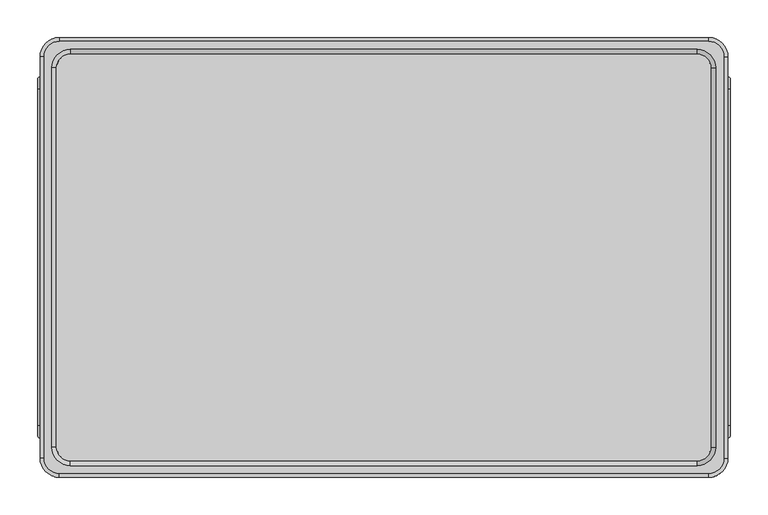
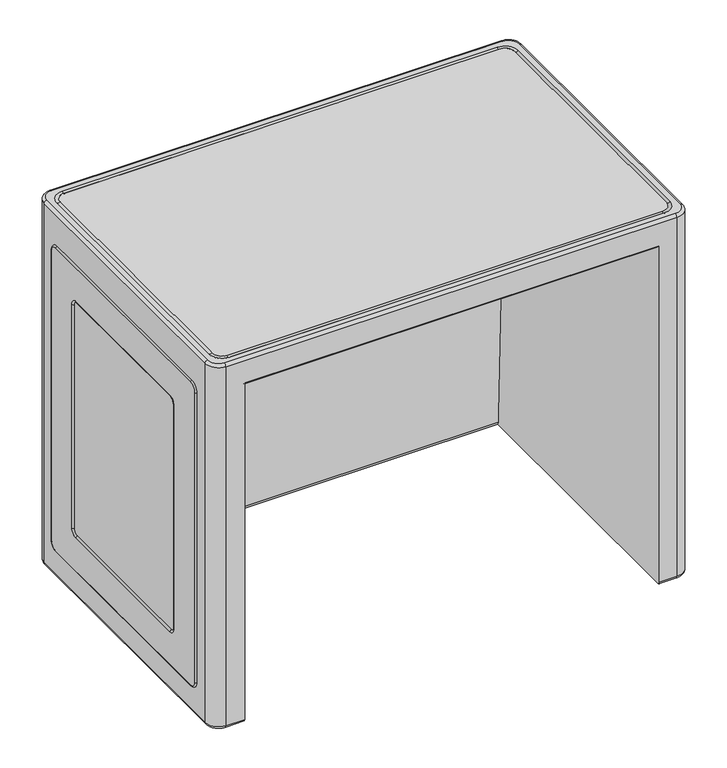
"""IFC4 building model written with IfcOpenShell, lengths in millimetres: furniture geometry, StanceHC-Frontier-Table_Desk : FRCG500."""

from ifc_helpers import new_model, si_unit, point, frame, origin, place, context, project, spatial, polyline, circle_curve, ellipse_curve, trimmed, source, transform, mapped, element, save
from ifc_brep_helpers import plane_surface, cylinder_surface, revolved_surface, advanced_brep


def furniture_8874e70b(model_context):
    return source(origin(), model_context, "Body", "AdvancedBrep", [
        advanced_brep(
        [(909.3563398, -25.4, 0.0), (888.7188398, -4.7625, 0.0), (888.7188398, 0.0, 4.7625), (914.1188398, -25.4, 4.7625), (914.1188398, -25.4, 731.7410185), (888.7188398, 0.0, 731.7410185), (888.7188398, -4.7625, 736.5035185), (909.3563398, -25.4, 736.5035185), (914.1188398, -558.6947752, 4.7625), (909.3563398, -558.6947752, 0.0), (909.3563398, -558.6947752, 736.5035185), (914.1188398, -558.6947752, 731.7410185), (888.7188398, -584.0947752, 4.7625), (888.7188398, -579.3322752, 0.0), (888.7188398, -579.3322752, 736.5035185), (888.7188398, -584.0947752, 731.7410185), (854.6510018, -584.0947752, 4.7625), (854.6510018, -579.3322752, 0.0), (25.4, -584.0947752, 4.7625), (25.4, -579.3322752, 0.0), (60.8106223, -579.3322752, 0.0), (60.8106223, -584.0947752, 4.7625), (25.4, -579.3322752, 736.5035185), (25.4, -584.0947752, 731.7410185), (60.8106223, -584.0947752, 686.4291708), (854.6510018, -584.0947752, 686.4291708), (0.0, -558.6947752, 4.7625), (4.7625, -558.6947752, 0.0), (4.7625, -558.6947752, 736.5035185), (0.0, -558.6947752, 731.7410185), (0.0, -25.4, 4.7625), (4.7625, -25.4, 0.0), (4.7625, -25.4, 736.5035185), (0.0, -25.4, 731.7410185), (25.4, 0.0, 4.7625), (25.4, -4.7625, 0.0), (25.4, -4.7625, 736.5035185), (25.4, 0.0, 731.7410185), (854.6510018, -48.6313695, 0.0), (60.8106223, -48.6313695, 0.0), (873.2309771, -15.7221405, 736.5035185), (897.6331606, -40.124324, 736.5035185), (897.6331606, -544.1829581, 736.5035185), (873.2309771, -568.5851417, 736.5035185), (40.1089371, -568.5851417, 736.5035185), (15.7067535, -544.1829581, 736.5035185), (15.7067535, -40.124324, 736.5035185), (40.1089371, -15.7221405, 736.5035185), (891.4936941, -40.124324, 736.5035185), (873.2309771, -21.861607, 736.5035185), (40.1089371, -21.861607, 736.5035185), (21.84622, -40.124324, 736.5035185), (21.84622, -544.1829581, 736.5035185), (40.1089371, -562.4456752, 736.5035185), (873.2309771, -562.4456752, 736.5035185), (891.4936941, -544.1829581, 736.5035185), (854.6510018, -573.0277191, 678.9532138), (854.6510018, -85.7246584, 661.9362159), (854.6510018, -73.4756185, 649.687176), (854.6510018, -50.9687399, 5.1744994), (60.8106223, -50.9687399, 5.1744994), (60.8106223, -73.4756185, 649.687176), (60.8106223, -85.7246584, 661.9362159), (60.8106223, -573.0277191, 678.9532138)],
        [
            (0, 1, circle_curve(frame((888.7188398, -25.4, 0.0), z_axis=(0.0, 0.0, 1.0), x_axis=(0.0, 1.0, 0.0)), 20.6375)),
            (1, 2, circle_curve(frame((888.7188398, -4.7625, 4.7625), z_axis=(1.0, 0.0, 0.0), x_axis=(0.0, 1.0, 0.0)), 4.7625)),
            (2, 3, circle_curve(frame((888.7188398, -25.4, 4.7625), z_axis=(0.0, 0.0, -1.0), x_axis=(0.0, 1.0, 0.0)), 25.4)),
            (3, 0, circle_curve(frame((909.3563398, -25.4, 4.7625), z_axis=(0.0, 1.0, 0.0), x_axis=(1.0, 0.0, 0.0)), 4.7625)),
            (4, 5, circle_curve(frame((888.7188398, -25.4, 731.7410185), z_axis=(0.0, 0.0, 1.0), x_axis=(0.0, 1.0, 0.0)), 25.4)),
            (5, 6, circle_curve(frame((888.7188398, -4.7625, 731.7410185), z_axis=(1.0, 0.0, 0.0), x_axis=(0.0, 1.0, 0.0)), 4.7625)),
            (6, 7, circle_curve(frame((888.7188398, -25.4, 736.5035185), z_axis=(0.0, 0.0, -1.0), x_axis=(0.0, 1.0, 0.0)), 20.6375)),
            (7, 4, circle_curve(frame((909.3563398, -25.4, 731.7410185), z_axis=(0.0, 1.0, 0.0), x_axis=(1.0, 0.0, 0.0)), 4.7625)),
            (2, 5),
            (4, 3),
            (3, 8),
            (8, 9, circle_curve(frame((909.3563398, -558.6947752, 4.7625), z_axis=(0.0, 1.0, 0.0), x_axis=(1.0, 0.0, 0.0)), 4.7625)),
            (9, 0),
            (7, 10),
            (10, 11, circle_curve(frame((909.3563398, -558.6947752, 731.7410185), z_axis=(0.0, 1.0, 0.0), x_axis=(1.0, 0.0, 0.0)), 4.7625)),
            (11, 4),
            (11, 8),
            (8, 12, circle_curve(frame((888.7188398, -558.6947752, 4.7625), z_axis=(0.0, 0.0, -1.0), x_axis=(1.0, 0.0, 0.0)), 25.4)),
            (12, 13, circle_curve(frame((888.7188398, -579.3322752, 4.7625), z_axis=(1.0, 0.0, 0.0), x_axis=(0.0, -1.0, 0.0)), 4.7625)),
            (13, 9, circle_curve(frame((888.7188398, -558.6947752, 0.0), z_axis=(0.0, 0.0, 1.0), x_axis=(1.0, 0.0, 0.0)), 20.6375)),
            (10, 14, circle_curve(frame((888.7188398, -558.6947752, 736.5035185), z_axis=(0.0, 0.0, -1.0), x_axis=(1.0, 0.0, 0.0)), 20.6375)),
            (14, 15, circle_curve(frame((888.7188398, -579.3322752, 731.7410185), z_axis=(1.0, 0.0, 0.0), x_axis=(0.0, -1.0, 0.0)), 4.7625)),
            (15, 11, circle_curve(frame((888.7188398, -558.6947752, 731.7410185), z_axis=(0.0, 0.0, 1.0), x_axis=(1.0, 0.0, 0.0)), 25.4)),
            (15, 12),
            (12, 16),
            (16, 17, circle_curve(frame((854.6510018, -579.3322752, 4.7625), z_axis=(1.0, 0.0, 0.0), x_axis=(0.0, -1.0, 0.0)), 4.7625)),
            (17, 13),
            (18, 19, circle_curve(frame((25.4, -579.3322752, 4.7625), z_axis=(1.0, 0.0, 0.0), x_axis=(0.0, -1.0, 0.0)), 4.7625)),
            (19, 20),
            (20, 21, circle_curve(frame((60.8106223, -579.3322752, 4.7625), z_axis=(-1.0, 0.0, 0.0), x_axis=(0.0, -1.0, 0.0)), 4.7625)),
            (21, 18),
            (14, 22),
            (22, 23, circle_curve(frame((25.4, -579.3322752, 731.7410185), z_axis=(1.0, 0.0, 0.0), x_axis=(0.0, -1.0, 0.0)), 4.7625)),
            (23, 15),
            (23, 18),
            (21, 24),
            (24, 25),
            (25, 16),
            (18, 26, circle_curve(frame((25.4, -558.6947752, 4.7625), z_axis=(0.0, 0.0, -1.0), x_axis=(0.0, -1.0, 0.0)), 25.4)),
            (26, 27, circle_curve(frame((4.7625, -558.6947752, 4.7625), z_axis=(0.0, -1.0, 0.0), x_axis=(-1.0, 0.0, 0.0)), 4.7625)),
            (27, 19, circle_curve(frame((25.4, -558.6947752, 0.0), z_axis=(0.0, 0.0, 1.0), x_axis=(0.0, -1.0, 0.0)), 20.6375)),
            (22, 28, circle_curve(frame((25.4, -558.6947752, 736.5035185), z_axis=(0.0, 0.0, -1.0), x_axis=(0.0, -1.0, 0.0)), 20.6375)),
            (28, 29, circle_curve(frame((4.7625, -558.6947752, 731.7410185), z_axis=(0.0, -1.0, 0.0), x_axis=(-1.0, 0.0, 0.0)), 4.7625)),
            (29, 23, circle_curve(frame((25.4, -558.6947752, 731.7410185), z_axis=(0.0, 0.0, 1.0), x_axis=(0.0, -1.0, 0.0)), 25.4)),
            (29, 26),
            (26, 30),
            (30, 31, circle_curve(frame((4.7625, -25.4, 4.7625), z_axis=(0.0, -1.0, 0.0), x_axis=(-1.0, 0.0, 0.0)), 4.7625)),
            (31, 27),
            (28, 32),
            (32, 33, circle_curve(frame((4.7625, -25.4, 731.7410185), z_axis=(0.0, -1.0, 0.0), x_axis=(-1.0, 0.0, 0.0)), 4.7625)),
            (33, 29),
            (33, 30),
            (30, 34, circle_curve(frame((25.4, -25.4, 4.7625), z_axis=(0.0, 0.0, -1.0), x_axis=(-1.0, 0.0, 0.0)), 25.4)),
            (34, 35, circle_curve(frame((25.4, -4.7625, 4.7625), z_axis=(-1.0, 0.0, 0.0), x_axis=(0.0, 1.0, 0.0)), 4.7625)),
            (35, 31, circle_curve(frame((25.4, -25.4, 0.0), z_axis=(0.0, 0.0, 1.0), x_axis=(-1.0, 0.0, 0.0)), 20.6375)),
            (32, 36, circle_curve(frame((25.4, -25.4, 736.5035185), z_axis=(0.0, 0.0, -1.0), x_axis=(-1.0, 0.0, 0.0)), 20.6375)),
            (36, 37, circle_curve(frame((25.4, -4.7625, 731.7410185), z_axis=(-1.0, 0.0, 0.0), x_axis=(0.0, 1.0, 0.0)), 4.7625)),
            (37, 33, circle_curve(frame((25.4, -25.4, 731.7410185), z_axis=(0.0, 0.0, 1.0), x_axis=(-1.0, 0.0, 0.0)), 25.4)),
            (37, 34),
            (1, 35),
            (34, 2),
            (17, 38),
            (38, 39),
            (39, 20),
            (6, 36),
            (40, 41, circle_curve(frame((873.2309771, -40.124324, 736.5035185), z_axis=(0.0, 0.0, -1.0), x_axis=(0.0, 1.0, 0.0)), 24.4021835)),
            (41, 42),
            (42, 43, circle_curve(frame((873.2309771, -544.1829581, 736.5035185), z_axis=(0.0, 0.0, -1.0), x_axis=(1.0, 0.0, 0.0)), 24.4021835)),
            (43, 44),
            (44, 45, circle_curve(frame((40.1089371, -544.1829581, 736.5035185), z_axis=(0.0, 0.0, -1.0), x_axis=(0.0, -1.0, 0.0)), 24.4021835)),
            (45, 46),
            (46, 47, circle_curve(frame((40.1089371, -40.124324, 736.5035185), z_axis=(0.0, 0.0, -1.0), x_axis=(-1.0, 0.0, 0.0)), 24.4021835)),
            (47, 40),
            (48, 49, circle_curve(frame((873.2309771, -40.124324, 736.5035185), z_axis=(0.0, 0.0, 1.0), x_axis=(0.0, 1.0, 0.0)), 18.2627171)),
            (49, 50),
            (50, 51, circle_curve(frame((40.1089371, -40.124324, 736.5035185), z_axis=(0.0, 0.0, 1.0), x_axis=(-1.0, 0.0, 0.0)), 18.2627171)),
            (51, 52),
            (52, 53, circle_curve(frame((40.1089371, -544.1829581, 736.5035185), z_axis=(0.0, 0.0, 1.0), x_axis=(0.0, -1.0, 0.0)), 18.2627171)),
            (53, 54),
            (54, 55, circle_curve(frame((873.2309771, -544.1829581, 736.5035185), z_axis=(0.0, 0.0, 1.0), x_axis=(1.0, 0.0, 0.0)), 18.2627171)),
            (55, 48),
            (5, 37),
            (56, 57),
            (57, 58, circle_curve(frame((854.6510018, -86.167882, 649.2439524), z_axis=(-1.0, 0.0, 0.0), x_axis=(0.0, 1.0, 0.0)), 12.7)),
            (58, 59),
            (59, 38, circle_curve(frame((854.6510018, -43.4945547, 5.4355037), z_axis=(1.0, 0.0, 0.0), x_axis=(0.0, 1.0, 0.0)), 7.478741)),
            (25, 56, circle_curve(frame((854.6510018, -572.5884204, 691.5330849), z_axis=(1.0, 0.0, 0.0), x_axis=(0.0, 1.0, 0.0)), 12.5875391)),
            (60, 61),
            (61, 62, circle_curve(frame((60.8106223, -86.167882, 649.2439524), z_axis=(1.0, 0.0, 0.0), x_axis=(0.0, 1.0, 0.0)), 12.7)),
            (62, 63),
            (63, 24, circle_curve(frame((60.8106223, -572.5884204, 691.5330849), z_axis=(-1.0, 0.0, 0.0), x_axis=(0.0, 1.0, 0.0)), 12.5875391)),
            (39, 60, circle_curve(frame((60.8106223, -43.4945547, 5.4355037), z_axis=(-1.0, 0.0, 0.0), x_axis=(0.0, 1.0, 0.0)), 7.478741)),
            (63, 56),
            (59, 60),
            (58, 61),
            (57, 62),
            (48, 41, circle_curve(frame((894.5634274, -40.124324, 737.8805691), z_axis=(0.0, -1.0, 0.0), x_axis=(1.0, 0.0, 0.0)), 3.364451)),
            (40, 49, circle_curve(frame((873.2309771, -18.7918737, 737.8805691), z_axis=(-1.0, 0.0, 0.0), x_axis=(0.0, 1.0, 0.0)), 3.364451)),
            (55, 42, circle_curve(frame((894.5634274, -544.1829581, 737.8805691), z_axis=(0.0, -1.0, 0.0), x_axis=(1.0, 0.0, 0.0)), 3.364451)),
            (54, 43, circle_curve(frame((873.2309771, -565.5154084, 737.8805691), z_axis=(-1.0, 0.0, 0.0), x_axis=(0.0, -1.0, 0.0)), 3.364451)),
            (53, 44, circle_curve(frame((40.1089371, -565.5154084, 737.8805691), z_axis=(-1.0, 0.0, 0.0), x_axis=(0.0, -1.0, 0.0)), 3.364451)),
            (52, 45, circle_curve(frame((18.7764868, -544.1829581, 737.8805691), z_axis=(0.0, 1.0, 0.0), x_axis=(-1.0, 0.0, 0.0)), 3.364451)),
            (51, 46, circle_curve(frame((18.7764868, -40.124324, 737.8805691), z_axis=(0.0, 1.0, 0.0), x_axis=(-1.0, 0.0, 0.0)), 3.364451)),
            (50, 47, circle_curve(frame((40.1089371, -18.7918737, 737.8805691), z_axis=(1.0, 0.0, 0.0), x_axis=(0.0, 1.0, 0.0)), 3.364451)),
        ],
        [
            revolved_surface(trimmed(ellipse_curve(frame((888.7188398, -4.7625, 4.7625), z_axis=(-1.0, 0.0, 0.0), x_axis=(0.0, 1.0, 0.0)), 4.7625, 4.7625), [point((888.7188398, 0.0, 4.7625))], [point((888.7188398, -4.7625, 0.0))], True, "CARTESIAN"), (888.7188398, -25.4, 0.0), (0.0, 0.0, -1.0)),
            revolved_surface(trimmed(ellipse_curve(frame((888.7188398, -4.7625, 731.7410185), z_axis=(-1.0, 0.0, 0.0), x_axis=(0.0, 1.0, 0.0)), 4.7625, 4.7625), [point((888.7188398, -4.7625, 736.5035185))], [point((888.7188398, 0.0, 731.7410185))], True, "CARTESIAN"), (888.7188398, -25.4, 0.0), (0.0, 0.0, -1.0)),
            cylinder_surface(frame((888.7188398, -25.4, 0.0), z_axis=(0.0, 0.0, -1.0), x_axis=(0.0, 1.0, 0.0)), 25.4),
            cylinder_surface(frame((909.3563398, -25.4, 4.7625), z_axis=(0.0, 1.0, 0.0), x_axis=(1.0, 0.0, 0.0)), 4.7625),
            cylinder_surface(frame((909.3563398, -25.4, 731.7410185), z_axis=(0.0, 1.0, 0.0), x_axis=(1.0, 0.0, 0.0)), 4.7625),
            plane_surface(frame((914.1188398, -25.4, 731.7410185), z_axis=(1.0, 0.0, 0.0), x_axis=(0.0, -1.0, 0.0))),
            revolved_surface(trimmed(ellipse_curve(frame((909.3563398, -558.6947752, 4.7625), z_axis=(0.0, 1.0, 0.0), x_axis=(1.0, 0.0, 0.0)), 4.7625, 4.7625), [point((914.1188398, -558.6947752, 4.7625))], [point((909.3563398, -558.6947752, 0.0))], True, "CARTESIAN"), (888.7188398, -558.6947752, 0.0), (0.0, 0.0, -1.0)),
            revolved_surface(trimmed(ellipse_curve(frame((909.3563398, -558.6947752, 731.7410185), z_axis=(0.0, 1.0, 0.0), x_axis=(1.0, 0.0, 0.0)), 4.7625, 4.7625), [point((909.3563398, -558.6947752, 736.5035185))], [point((914.1188398, -558.6947752, 731.7410185))], True, "CARTESIAN"), (888.7188398, -558.6947752, 0.0), (0.0, 0.0, -1.0)),
            cylinder_surface(frame((888.7188398, -558.6947752, 0.0), z_axis=(0.0, 0.0, -1.0), x_axis=(1.0, 0.0, 0.0)), 25.4),
            cylinder_surface(frame((888.7188398, -579.3322752, 4.7625), z_axis=(1.0, 0.0, 0.0), x_axis=(0.0, -1.0, 0.0)), 4.7625),
            cylinder_surface(frame((888.7188398, -579.3322752, 731.7410185), z_axis=(1.0, 0.0, 0.0), x_axis=(0.0, -1.0, 0.0)), 4.7625),
            plane_surface(frame((888.7188398, -584.0947752, 731.7410185), z_axis=(0.0, -1.0, 0.0), x_axis=(-1.0, 0.0, 0.0))),
            revolved_surface(trimmed(ellipse_curve(frame((25.4, -579.3322752, 4.7625), z_axis=(1.0, 0.0, 0.0), x_axis=(0.0, -1.0, 0.0)), 4.7625, 4.7625), [point((25.4, -584.0947752, 4.7625))], [point((25.4, -579.3322752, 0.0))], True, "CARTESIAN"), (25.4, -558.6947752, 0.0), (0.0, 0.0, -1.0)),
            revolved_surface(trimmed(ellipse_curve(frame((25.4, -579.3322752, 731.7410185), z_axis=(1.0, 0.0, 0.0), x_axis=(0.0, -1.0, 0.0)), 4.7625, 4.7625), [point((25.4, -579.3322752, 736.5035185))], [point((25.4, -584.0947752, 731.7410185))], True, "CARTESIAN"), (25.4, -558.6947752, 0.0), (0.0, 0.0, -1.0)),
            cylinder_surface(frame((25.4, -558.6947752, 0.0), z_axis=(0.0, 0.0, -1.0), x_axis=(0.0, -1.0, 0.0)), 25.4),
            cylinder_surface(frame((4.7625, -558.6947752, 4.7625), z_axis=(0.0, -1.0, 0.0), x_axis=(-1.0, 0.0, 0.0)), 4.7625),
            cylinder_surface(frame((4.7625, -558.6947752, 731.7410185), z_axis=(0.0, -1.0, 0.0), x_axis=(-1.0, 0.0, 0.0)), 4.7625),
            plane_surface(frame((0.0, -558.6947752, 731.7410185), z_axis=(-1.0, 0.0, 0.0), x_axis=(0.0, 1.0, 0.0))),
            revolved_surface(trimmed(ellipse_curve(frame((4.7625, -25.4, 4.7625), z_axis=(0.0, -1.0, 0.0), x_axis=(-1.0, 0.0, 0.0)), 4.7625, 4.7625), [point((0.0, -25.4, 4.7625))], [point((4.7625, -25.4, 0.0))], True, "CARTESIAN"), (25.4, -25.4, 0.0), (0.0, 0.0, -1.0)),
            revolved_surface(trimmed(ellipse_curve(frame((4.7625, -25.4, 731.7410185), z_axis=(0.0, -1.0, 0.0), x_axis=(-1.0, 0.0, 0.0)), 4.7625, 4.7625), [point((4.7625, -25.4, 736.5035185))], [point((0.0, -25.4, 731.7410185))], True, "CARTESIAN"), (25.4, -25.4, 0.0), (0.0, 0.0, -1.0)),
            cylinder_surface(frame((25.4, -25.4, 0.0), z_axis=(0.0, 0.0, -1.0), x_axis=(-1.0, 0.0, 0.0)), 25.4),
            cylinder_surface(frame((25.4, -4.7625, 4.7625), z_axis=(-1.0, 0.0, 0.0), x_axis=(0.0, 1.0, 0.0)), 4.7625),
            plane_surface(frame((25.4, -4.7625, 0.0), z_axis=(0.0, 0.0, -1.0), x_axis=(1.0, 0.0, 0.0))),
            plane_surface(frame((25.4, -9.525, 736.5035185), z_axis=(0.0, 0.0, 1.0), x_axis=(1.0, 0.0, 0.0))),
            cylinder_surface(frame((25.4, -4.7625, 731.7410185), z_axis=(-1.0, 0.0, 0.0), x_axis=(0.0, 1.0, 0.0)), 4.7625),
            plane_surface(frame((25.4, 0.0, 731.7410185), z_axis=(0.0, 1.0, 0.0), x_axis=(1.0, 0.0, 0.0))),
            plane_surface(frame((854.6510018, -560.0008812, 691.5330849), z_axis=(-1.0, 0.0, 0.0), x_axis=(0.0, 0.0, -1.0))),
            plane_surface(frame((60.8106223, -560.0008812, 691.5330849), z_axis=(1.0, 0.0, 0.0), x_axis=(0.0, 0.0, 1.0))),
            cylinder_surface(frame((60.8106223, -572.5884204, 691.5330849), z_axis=(-1.0, 0.0, 0.0), x_axis=(0.0, 1.0, 0.0)), 12.5875391),
            cylinder_surface(frame((60.8106223, -43.4945547, 5.4355037), z_axis=(-1.0, 0.0, 0.0), x_axis=(0.0, 1.0, 0.0)), 7.478741),
            plane_surface(frame((854.6510018, -50.9687399, 5.1744994), z_axis=(0.0, -0.9993908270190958, -0.0348994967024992), x_axis=(-1.0, 0.0, 0.0))),
            revolved_surface(polyline([(854.6510018, -73.467882, 649.2439524), (60.8106223, -73.467882, 649.2439524)]), (60.8106223, -86.167882, 649.2439524), (1.0, 0.0, 0.0)),
            plane_surface(frame((854.6510018, -85.7246584, 661.9362159), z_axis=(0.0, -0.03489949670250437, -0.9993908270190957), x_axis=(-1.0, 0.0, 0.0))),
            revolved_surface(trimmed(ellipse_curve(frame((873.2309771, -18.7918737, 737.8805691), z_axis=(1.0, 0.0, 0.0), x_axis=(0.0, 1.0, 0.0)), 3.364451, 3.364451), [point((873.2309771, -22.1563247, 737.8805691))], [point((873.2309771, -15.4274227, 737.8805691))], True, "CARTESIAN"), (873.2309771, -40.124324, 0.0), (0.0, 0.0, -1.0)),
            revolved_surface(polyline([(897.9278784, -40.124324, 737.8805691), (897.9278784, -544.1829581, 737.8805691)]), (894.5634274, -40.124324, 737.8805691), (0.0, 1.0, 0.0)),
            revolved_surface(trimmed(ellipse_curve(frame((894.5634274, -544.1829581, 737.8805691), z_axis=(0.0, -1.0, 0.0), x_axis=(1.0, 0.0, 0.0)), 3.364451, 3.364451), [point((891.1989764, -544.1829581, 737.8805691))], [point((897.9278784, -544.1829581, 737.8805691))], True, "CARTESIAN"), (873.2309771, -544.1829581, 0.0), (0.0, 0.0, -1.0)),
            revolved_surface(polyline([(873.2309771, -568.8798594, 737.8805691), (40.10893710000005, -568.8798594, 737.8805691)]), (873.2309771, -565.5154084, 737.8805691), (1.0, 0.0, 0.0)),
            revolved_surface(trimmed(ellipse_curve(frame((40.1089371, -565.5154084, 737.8805691), z_axis=(-1.0, 0.0, 0.0), x_axis=(0.0, -1.0, 0.0)), 3.364451, 3.364451), [point((40.1089371, -562.1509574, 737.8805691))], [point((40.1089371, -568.8798594, 737.8805691))], True, "CARTESIAN"), (40.1089371, -544.1829581, 0.0), (0.0, 0.0, -1.0)),
            revolved_surface(polyline([(15.412035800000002, -544.1829581, 737.8805691), (15.412035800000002, -40.124324, 737.8805691)]), (18.7764868, -544.1829581, 737.8805691), (0.0, -1.0, 0.0)),
            revolved_surface(trimmed(ellipse_curve(frame((18.7764868, -40.124324, 737.8805691), z_axis=(0.0, 1.0, 0.0), x_axis=(-1.0, 0.0, 0.0)), 3.364451, 3.364451), [point((22.1409378, -40.124324, 737.8805691))], [point((15.4120358, -40.124324, 737.8805691))], True, "CARTESIAN"), (40.1089371, -40.124324, 0.0), (0.0, 0.0, -1.0)),
            revolved_surface(polyline([(40.1089371, -15.427422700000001, 737.8805691), (873.2309771, -15.427422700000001, 737.8805691)]), (40.1089371, -18.7918737, 737.8805691), (-1.0, 0.0, 0.0)),
        ],
        [
            (0, [[1, 2, 3, 4]]),
            (1, [[5, 6, 7, 8]]),
            (2, [[-3, 9, -5, 10]]),
            (3, [[-4, 11, 12, 13]]),
            (4, [[-8, 14, 15, 16]]),
            (5, [[-10, -16, 17, -11]]),
            (6, [[-12, 18, 19, 20]]),
            (7, [[-15, 21, 22, 23]]),
            (8, [[-17, -23, 24, -18]]),
            (9, [[-19, 25, 26, 27]]),
            (9, [[28, 29, 30, 31]]),
            (10, [[-22, 32, 33, 34]]),
            (11, [[-24, -34, 35, -31, 36, 37, 38, -25]]),
            (12, [[-28, 39, 40, 41]]),
            (13, [[-33, 42, 43, 44]]),
            (14, [[-35, -44, 45, -39]]),
            (15, [[-40, 46, 47, 48]]),
            (16, [[-43, 49, 50, 51]]),
            (17, [[-45, -51, 52, -46]]),
            (18, [[-47, 53, 54, 55]]),
            (19, [[-50, 56, 57, 58]]),
            (20, [[-52, -58, 59, -53]]),
            (21, [[-2, 60, -54, 61]]),
            (22, [[-1, -13, -20, -27, 62, 63, 64, -29, -41, -48, -55, -60]]),
            (23, [[-7, 65, -56, -49, -42, -32, -21, -14], [66, 67, 68, 69, 70, 71, 72, 73]]),
            (23, [[74, 75, 76, 77, 78, 79, 80, 81]]),
            (24, [[-6, 82, -57, -65]]),
            (25, [[-9, -61, -59, -82]]),
            (26, [[83, 84, 85, 86, -62, -26, -38, 87]]),
            (27, [[88, 89, 90, 91, -36, -30, -64, 92]]),
            (28, [[93, -87, -37, -91]]),
            (29, [[94, -92, -63, -86]]),
            (30, [[-85, 95, -88, -94]]),
            (31, [[-84, 96, -89, -95]]),
            (32, [[-83, -93, -90, -96]]),
            (33, [[97, -66, 98, -74]]),
            (34, [[-97, -81, 99, -67]]),
            (35, [[-99, -80, 100, -68]]),
            (36, [[-100, -79, 101, -69]]),
            (37, [[-101, -78, 102, -70]]),
            (38, [[-102, -77, 103, -71]]),
            (39, [[-103, -76, 104, -72]]),
            (40, [[-104, -75, -98, -73]]),
        ],
    ),
        advanced_brep(
        [(-3.2133727, -528.7132992, 655.8047379), (-3.2133727, -516.0132992, 668.5047379), (-3.2133727, -68.1336605, 668.5047379), (-3.2133727, -55.4336605, 655.8047379), (-3.2133727, -55.4336605, 69.2932768), (-3.2133727, -68.1336605, 56.5932768), (-3.2133727, -516.0132992, 56.5932768), (-3.2133727, -528.7132992, 69.2932768), (-3.2133727, -122.7202541, 588.4411031), (-3.2133727, -135.4202541, 601.141105), (-3.2133727, -447.6841002, 601.141105), (-3.2133727, -460.3841002, 588.441105), (-3.2133727, -460.3841002, 135.5244338), (-3.2133727, -447.6841002, 122.8244343), (-3.2133727, -135.4202557, 122.8244343), (-3.2133727, -122.7202541, 135.5244343), (0.0, -516.0132992, 671.7181106), (0.0, -531.9266719, 655.8047379), (0.0, -531.9266719, 69.2932768), (0.0, -516.0132992, 53.379904), (0.0, -68.1336605, 53.379904), (0.0, -52.2202878, 69.2932768), (0.0, -52.2202878, 655.8047379), (0.0, -68.1336605, 671.7181106), (0.0, -135.4202541, 597.9277322), (0.0, -125.9336268, 588.441105), (0.0, -125.9336268, 135.5244343), (0.0, -135.4202541, 126.037807), (0.0, -447.6841002, 126.037807), (0.0, -457.1707275, 135.5244343), (0.0, -457.1707275, 588.441105), (0.0, -447.6841002, 597.9277322)],
        [
            (0, 1, circle_curve(frame((-3.2133727, -516.0132992, 655.8047379), z_axis=(-1.0, 0.0, 0.0), x_axis=(0.0, 0.0, 1.0)), 12.7)),
            (1, 2),
            (2, 3, circle_curve(frame((-3.2133727, -68.1336605, 655.8047379), z_axis=(-1.0, 0.0, 0.0), x_axis=(0.0, 1.0, 0.0)), 12.7)),
            (3, 4),
            (4, 5, circle_curve(frame((-3.2133727, -68.1336605, 69.2932768), z_axis=(-1.0, 0.0, 0.0), x_axis=(0.0, 0.0, -1.0)), 12.7)),
            (5, 6),
            (6, 7, circle_curve(frame((-3.2133727, -516.0132992, 69.2932768), z_axis=(-1.0, 0.0, 0.0), x_axis=(0.0, -1.0, 0.0)), 12.7)),
            (7, 0),
            (8, 9, circle_curve(frame((-3.2133727, -135.4202541, 588.441105), z_axis=(1.0, 0.0, 0.0), x_axis=(0.0, 0.0, 1.0)), 12.7)),
            (9, 10),
            (10, 11, circle_curve(frame((-3.2133727, -447.6841002, 588.441105), z_axis=(1.0, 0.0, 0.0), x_axis=(0.0, -1.0, 0.0)), 12.7)),
            (11, 12),
            (12, 13, circle_curve(frame((-3.2133727, -447.6841002, 135.5244343), z_axis=(1.0, 0.0, 0.0), x_axis=(0.0, 0.0, -1.0)), 12.7)),
            (13, 14),
            (14, 15, circle_curve(frame((-3.2133727, -135.4202541, 135.5244343), z_axis=(1.0, 0.0, 0.0), x_axis=(0.0, 1.0, 0.0)), 12.7)),
            (15, 8),
            (16, 17, circle_curve(frame((0.0, -516.0132992, 655.8047379), z_axis=(1.0, 0.0, 0.0), x_axis=(0.0, 0.0, 1.0)), 15.9133727)),
            (17, 18),
            (18, 19, circle_curve(frame((0.0, -516.0132992, 69.2932768), z_axis=(1.0, 0.0, 0.0), x_axis=(0.0, -1.0, 0.0)), 15.9133727)),
            (19, 20),
            (20, 21, circle_curve(frame((0.0, -68.1336605, 69.2932768), z_axis=(1.0, 0.0, 0.0), x_axis=(0.0, 0.0, -1.0)), 15.9133727)),
            (21, 22),
            (22, 23, circle_curve(frame((0.0, -68.1336605, 655.8047379), z_axis=(1.0, 0.0, 0.0), x_axis=(0.0, 1.0, 0.0)), 15.9133727)),
            (23, 16),
            (24, 25, circle_curve(frame((0.0, -135.4202541, 588.441105), z_axis=(-1.0, 0.0, 0.0), x_axis=(0.0, 0.0, 1.0)), 9.4866273)),
            (25, 26),
            (26, 27, circle_curve(frame((0.0, -135.4202541, 135.5244343), z_axis=(-1.0, 0.0, 0.0), x_axis=(0.0, 1.0, 0.0)), 9.4866273)),
            (27, 28),
            (28, 29, circle_curve(frame((0.0, -447.6841002, 135.5244343), z_axis=(-1.0, 0.0, 0.0), x_axis=(0.0, 0.0, -1.0)), 9.4866273)),
            (29, 30),
            (30, 31, circle_curve(frame((0.0, -447.6841002, 588.441105), z_axis=(-1.0, 0.0, 0.0), x_axis=(0.0, -1.0, 0.0)), 9.4866273)),
            (31, 24),
            (16, 1, circle_curve(frame((0.0, -516.0132992, 668.5047379), z_axis=(0.0, -1.0, 0.0), x_axis=(0.0, 0.0, -1.0)), 3.2133727)),
            (0, 17, circle_curve(frame((0.0, -528.7132992, 655.8047379), z_axis=(0.0, 0.0, 1.0), x_axis=(0.0, 1.0, 0.0)), 3.2133727)),
            (7, 18, circle_curve(frame((0.0, -528.7132992, 69.2932768), z_axis=(0.0, 0.0, 1.0), x_axis=(0.0, 1.0, 0.0)), 3.2133727)),
            (6, 19, circle_curve(frame((0.0, -516.0132992, 56.5932768), z_axis=(0.0, -1.0, 0.0), x_axis=(0.0, 0.0, 1.0)), 3.2133727)),
            (5, 20, circle_curve(frame((0.0, -68.1336605, 56.5932768), z_axis=(0.0, -1.0, 0.0), x_axis=(0.0, 0.0, 1.0)), 3.2133727)),
            (4, 21, circle_curve(frame((0.0, -55.4336605, 69.2932768), z_axis=(0.0, 0.0, -1.0), x_axis=(0.0, -1.0, 0.0)), 3.2133727)),
            (3, 22, circle_curve(frame((0.0, -55.4336605, 655.8047379), z_axis=(0.0, 0.0, -1.0), x_axis=(0.0, -1.0, 0.0)), 3.2133727)),
            (2, 23, circle_curve(frame((0.0, -68.1336605, 668.5047379), z_axis=(0.0, 1.0, 0.0), x_axis=(0.0, 0.0, -1.0)), 3.2133727)),
            (24, 9, circle_curve(frame((0.0, -135.4202541, 601.141105), z_axis=(0.0, 1.0, 0.0), x_axis=(0.0, 0.0, 1.0)), 3.2133727)),
            (8, 25, circle_curve(frame((0.0, -122.7202541, 588.441105), z_axis=(0.0, 0.0, 1.0), x_axis=(0.0, 1.0, 0.0)), 3.2133727)),
            (15, 26, circle_curve(frame((0.0, -122.7202541, 135.5244343), z_axis=(0.0, 0.0, 1.0), x_axis=(0.0, 1.0, 0.0)), 3.2133727)),
            (14, 27, circle_curve(frame((0.0, -135.4202541, 122.8244343), z_axis=(0.0, 1.0, 0.0), x_axis=(0.0, 0.0, -1.0)), 3.2133727)),
            (13, 28, circle_curve(frame((0.0, -447.6841002, 122.8244343), z_axis=(0.0, 1.0, 0.0), x_axis=(0.0, 0.0, -1.0)), 3.2133727)),
            (12, 29, circle_curve(frame((0.0, -460.3841002, 135.5244343), z_axis=(0.0, 0.0, -1.0), x_axis=(0.0, -1.0, 0.0)), 3.2133727)),
            (11, 30, circle_curve(frame((0.0, -460.3841002, 588.441105), z_axis=(0.0, 0.0, -1.0), x_axis=(0.0, -1.0, 0.0)), 3.2133727)),
            (10, 31, circle_curve(frame((0.0, -447.6841002, 601.141105), z_axis=(0.0, -1.0, 0.0), x_axis=(0.0, 0.0, 1.0)), 3.2133727)),
        ],
        [
            plane_surface(frame((-3.2133727, -137.2952184, 601.141105), z_axis=(-1.0, 0.0, 0.0), x_axis=(0.0, -1.0, 0.0))),
            plane_surface(frame((0.0, -137.2952184, 601.141105), z_axis=(1.0, 0.0, 0.0), x_axis=(0.0, 1.0, 0.0))),
            revolved_surface(trimmed(ellipse_curve(frame((0.0, -516.0132992, 668.5047379), z_axis=(0.0, 1.0, 0.0), x_axis=(0.0, 0.0, -1.0)), 3.2133727, 3.2133727), [point((-3.2133727, -516.0132992, 668.5047379))], [point((0.0, -516.0132992, 671.7181106))], True, "CARTESIAN"), (0.0, -516.0132992, 655.8047379), (1.0, 0.0, 0.0)),
            cylinder_surface(frame((0.0, -528.7132992, 655.8047379), z_axis=(0.0, 0.0, 1.0), x_axis=(0.0, 1.0, 0.0)), 3.2133727),
            revolved_surface(trimmed(ellipse_curve(frame((0.0, -528.7132992, 69.2932768), z_axis=(0.0, 0.0, 1.0), x_axis=(0.0, 1.0, 0.0)), 3.2133727, 3.2133727), [point((-3.2133727, -528.7132992, 69.2932768))], [point((0.0, -531.9266719, 69.2932768))], True, "CARTESIAN"), (0.0, -516.0132992, 69.2932768), (1.0, 0.0, 0.0)),
            cylinder_surface(frame((0.0, -516.0132992, 56.5932768), z_axis=(0.0, -1.0, 0.0), x_axis=(0.0, 0.0, 1.0)), 3.2133727),
            revolved_surface(trimmed(ellipse_curve(frame((0.0, -68.1336605, 56.5932768), z_axis=(0.0, -1.0, 0.0), x_axis=(0.0, 0.0, 1.0)), 3.2133727, 3.2133727), [point((-3.2133727, -68.1336605, 56.5932768))], [point((0.0, -68.1336605, 53.379904))], True, "CARTESIAN"), (0.0, -68.1336605, 69.2932768), (1.0, 0.0, 0.0)),
            cylinder_surface(frame((0.0, -55.4336605, 69.2932768), z_axis=(0.0, 0.0, -1.0), x_axis=(0.0, -1.0, 0.0)), 3.2133727),
            revolved_surface(trimmed(ellipse_curve(frame((0.0, -55.4336605, 655.8047379), z_axis=(0.0, 0.0, -1.0), x_axis=(0.0, -1.0, 0.0)), 3.2133727, 3.2133727), [point((-3.2133727, -55.4336605, 655.8047379))], [point((0.0, -52.2202878, 655.8047379))], True, "CARTESIAN"), (0.0, -68.1336605, 655.8047379), (1.0, 0.0, 0.0)),
            cylinder_surface(frame((0.0, -68.1336605, 668.5047379), z_axis=(0.0, 1.0, 0.0), x_axis=(0.0, 0.0, -1.0)), 3.2133727),
            revolved_surface(trimmed(ellipse_curve(frame((0.0, -135.4202541, 601.141105), z_axis=(0.0, -1.0, 0.0), x_axis=(0.0, 0.0, 1.0)), 3.2133727, 3.2133727), [point((-3.2133727, -135.4202541, 601.141105))], [point((0.0, -135.4202541, 597.9277322))], True, "CARTESIAN"), (0.0, -135.4202541, 588.441105), (-1.0, 0.0, 0.0)),
            cylinder_surface(frame((0.0, -122.7202541, 588.441105), z_axis=(0.0, 0.0, 1.0), x_axis=(0.0, 1.0, 0.0)), 3.2133727),
            revolved_surface(trimmed(ellipse_curve(frame((0.0, -122.7202541, 135.5244343), z_axis=(0.0, 0.0, 1.0), x_axis=(0.0, 1.0, 0.0)), 3.2133727, 3.2133727), [point((-3.2133727, -122.7202541, 135.5244343))], [point((0.0, -125.9336268, 135.5244343))], True, "CARTESIAN"), (0.0, -135.4202541, 135.5244343), (-1.0, 0.0, 0.0)),
            cylinder_surface(frame((0.0, -135.4202541, 122.8244343), z_axis=(0.0, 1.0, 0.0), x_axis=(0.0, 0.0, -1.0)), 3.2133727),
            revolved_surface(trimmed(ellipse_curve(frame((0.0, -447.6841002, 122.8244343), z_axis=(0.0, 1.0, 0.0), x_axis=(0.0, 0.0, -1.0)), 3.2133727, 3.2133727), [point((-3.2133727, -447.6841002, 122.8244343))], [point((0.0, -447.6841002, 126.037807))], True, "CARTESIAN"), (0.0, -447.6841002, 135.5244343), (-1.0, 0.0, 0.0)),
            cylinder_surface(frame((0.0, -460.3841002, 135.5244343), z_axis=(0.0, 0.0, -1.0), x_axis=(0.0, -1.0, 0.0)), 3.2133727),
            revolved_surface(trimmed(ellipse_curve(frame((0.0, -460.3841002, 588.441105), z_axis=(0.0, 0.0, -1.0), x_axis=(0.0, -1.0, 0.0)), 3.2133727, 3.2133727), [point((-3.2133727, -460.3841002, 588.441105))], [point((0.0, -457.1707275, 588.441105))], True, "CARTESIAN"), (0.0, -447.6841002, 588.441105), (-1.0, 0.0, 0.0)),
            cylinder_surface(frame((0.0, -447.6841002, 601.141105), z_axis=(0.0, -1.0, 0.0), x_axis=(0.0, 0.0, 1.0)), 3.2133727),
        ],
        [
            (0, [[1, 2, 3, 4, 5, 6, 7, 8], [9, 10, 11, 12, 13, 14, 15, 16]]),
            (1, [[17, 18, 19, 20, 21, 22, 23, 24], [25, 26, 27, 28, 29, 30, 31, 32]]),
            (2, [[-17, 33, -1, 34]]),
            (3, [[-34, -8, 35, -18]]),
            (4, [[-35, -7, 36, -19]]),
            (5, [[-36, -6, 37, -20]]),
            (6, [[-37, -5, 38, -21]]),
            (7, [[-38, -4, 39, -22]]),
            (8, [[-39, -3, 40, -23]]),
            (9, [[-33, -24, -40, -2]]),
            (10, [[-25, 41, -9, 42]]),
            (11, [[-42, -16, 43, -26]]),
            (12, [[-43, -15, 44, -27]]),
            (13, [[-44, -14, 45, -28]]),
            (14, [[-45, -13, 46, -29]]),
            (15, [[-46, -12, 47, -30]]),
            (16, [[-47, -11, 48, -31]]),
            (17, [[-41, -32, -48, -10]]),
        ],
    ),
        advanced_brep(
        [(917.3322126, -55.3814761, 655.8047379), (917.3322126, -68.0814761, 668.5047379), (917.3322126, -515.9611147, 668.5047379), (917.3322126, -528.6611147, 655.8047379), (917.3322126, -528.6611147, 69.2932768), (917.3322126, -515.9611147, 56.5932768), (917.3322126, -68.0814761, 56.5932768), (917.3322126, -55.3814761, 69.2932768), (917.3322126, -461.3745211, 588.441105), (917.3322126, -448.6745211, 601.141105), (917.3322126, -136.410675, 601.141105), (917.3322126, -123.710675, 588.441105), (917.3322126, -123.710675, 135.5244343), (917.3322126, -136.410675, 122.8244343), (917.3322126, -448.6745211, 122.8244343), (917.3322126, -461.3745211, 135.5244343), (914.1188398, -68.0814761, 671.7181106), (914.1188398, -52.1681033, 655.8047379), (914.1188398, -52.1681033, 69.2932768), (914.1188398, -68.0814761, 53.379904), (914.1188398, -515.9611147, 53.379904), (914.1188398, -531.8744875, 69.2932768), (914.1188398, -531.8744875, 655.8047379), (914.1188398, -515.9611147, 671.7181106), (914.1188398, -448.6745211, 597.9277322), (914.1188398, -458.1611484, 588.441105), (914.1188398, -458.1611484, 135.5244343), (914.1188398, -448.6745211, 126.037807), (914.1188398, -136.410675, 126.037807), (914.1188398, -126.9240477, 135.5244343), (914.1188398, -126.9240477, 588.441105), (914.1188398, -136.410675, 597.9277322)],
        [
            (0, 1, circle_curve(frame((917.3322126, -68.0814761, 655.8047379), z_axis=(1.0, 0.0, 0.0), x_axis=(0.0, 0.0, 1.0)), 12.7)),
            (1, 2),
            (2, 3, circle_curve(frame((917.3322126, -515.9611147, 655.8047379), z_axis=(1.0, 0.0, 0.0), x_axis=(0.0, -1.0, 0.0)), 12.7)),
            (3, 4),
            (4, 5, circle_curve(frame((917.3322126, -515.9611147, 69.2932768), z_axis=(1.0, 0.0, 0.0), x_axis=(0.0, 0.0, -1.0)), 12.7)),
            (5, 6),
            (6, 7, circle_curve(frame((917.3322126, -68.0814761, 69.2932768), z_axis=(1.0, 0.0, 0.0), x_axis=(0.0, 1.0, 0.0)), 12.7)),
            (7, 0),
            (8, 9, circle_curve(frame((917.3322126, -448.6745211, 588.441105), z_axis=(-1.0, 0.0, 0.0), x_axis=(0.0, 0.0, 1.0)), 12.7)),
            (9, 10),
            (10, 11, circle_curve(frame((917.3322126, -136.410675, 588.441105), z_axis=(-1.0, 0.0, 0.0), x_axis=(0.0, 1.0, 0.0)), 12.7)),
            (11, 12),
            (12, 13, circle_curve(frame((917.3322126, -136.410675, 135.5244343), z_axis=(-1.0, 0.0, 0.0), x_axis=(0.0, 0.0, -1.0)), 12.7)),
            (13, 14),
            (14, 15, circle_curve(frame((917.3322126, -448.6745211, 135.5244343), z_axis=(-1.0, 0.0, 0.0), x_axis=(0.0, -1.0, 0.0)), 12.7)),
            (15, 8),
            (16, 17, circle_curve(frame((914.1188398, -68.0814761, 655.8047379), z_axis=(-1.0, 0.0, 0.0), x_axis=(0.0, 0.0, 1.0)), 15.9133727)),
            (17, 18),
            (18, 19, circle_curve(frame((914.1188398, -68.0814761, 69.2932768), z_axis=(-1.0, 0.0, 0.0), x_axis=(0.0, 1.0, 0.0)), 15.9133727)),
            (19, 20),
            (20, 21, circle_curve(frame((914.1188398, -515.9611147, 69.2932768), z_axis=(-1.0, 0.0, 0.0), x_axis=(0.0, 0.0, -1.0)), 15.9133727)),
            (21, 22),
            (22, 23, circle_curve(frame((914.1188398, -515.9611147, 655.8047379), z_axis=(-1.0, 0.0, 0.0), x_axis=(0.0, -1.0, 0.0)), 15.9133727)),
            (23, 16),
            (24, 25, circle_curve(frame((914.1188398, -448.6745211, 588.441105), z_axis=(1.0, 0.0, 0.0), x_axis=(0.0, 0.0, 1.0)), 9.4866273)),
            (25, 26),
            (26, 27, circle_curve(frame((914.1188398, -448.6745211, 135.5244343), z_axis=(1.0, 0.0, 0.0), x_axis=(0.0, -1.0, 0.0)), 9.4866273)),
            (27, 28),
            (28, 29, circle_curve(frame((914.1188398, -136.410675, 135.5244343), z_axis=(1.0, 0.0, 0.0), x_axis=(0.0, 0.0, -1.0)), 9.4866273)),
            (29, 30),
            (30, 31, circle_curve(frame((914.1188398, -136.410675, 588.441105), z_axis=(1.0, 0.0, 0.0), x_axis=(0.0, 1.0, 0.0)), 9.4866273)),
            (31, 24),
            (16, 1, circle_curve(frame((914.1188398, -68.0814761, 668.5047379), z_axis=(0.0, 1.0, 0.0), x_axis=(0.0, 0.0, -1.0)), 3.2133727)),
            (0, 17, circle_curve(frame((914.1188398, -55.3814761, 655.8047379), z_axis=(0.0, 0.0, 1.0), x_axis=(0.0, -1.0, 0.0)), 3.2133727)),
            (7, 18, circle_curve(frame((914.1188398, -55.3814761, 69.2932768), z_axis=(0.0, 0.0, 1.0), x_axis=(0.0, -1.0, 0.0)), 3.2133727)),
            (6, 19, circle_curve(frame((914.1188398, -68.0814761, 56.5932768), z_axis=(0.0, 1.0, 0.0), x_axis=(0.0, 0.0, 1.0)), 3.2133727)),
            (5, 20, circle_curve(frame((914.1188398, -515.9611147, 56.5932768), z_axis=(0.0, 1.0, 0.0), x_axis=(0.0, 0.0, 1.0)), 3.2133727)),
            (4, 21, circle_curve(frame((914.1188398, -528.6611147, 69.2932768), z_axis=(0.0, 0.0, -1.0), x_axis=(0.0, 1.0, 0.0)), 3.2133727)),
            (3, 22, circle_curve(frame((914.1188398, -528.6611147, 655.8047379), z_axis=(0.0, 0.0, -1.0), x_axis=(0.0, 1.0, 0.0)), 3.2133727)),
            (2, 23, circle_curve(frame((914.1188398, -515.9611147, 668.5047379), z_axis=(0.0, -1.0, 0.0), x_axis=(0.0, 0.0, -1.0)), 3.2133727)),
            (24, 9, circle_curve(frame((914.1188398, -448.6745211, 601.141105), z_axis=(0.0, -1.0, 0.0), x_axis=(0.0, 0.0, 1.0)), 3.2133727)),
            (8, 25, circle_curve(frame((914.1188398, -461.3745211, 588.441105), z_axis=(0.0, 0.0, 1.0), x_axis=(0.0, -1.0, 0.0)), 3.2133727)),
            (15, 26, circle_curve(frame((914.1188398, -461.3745211, 135.5244343), z_axis=(0.0, 0.0, 1.0), x_axis=(0.0, -1.0, 0.0)), 3.2133727)),
            (14, 27, circle_curve(frame((914.1188398, -448.6745211, 122.8244343), z_axis=(0.0, -1.0, 0.0), x_axis=(0.0, 0.0, -1.0)), 3.2133727)),
            (13, 28, circle_curve(frame((914.1188398, -136.410675, 122.8244343), z_axis=(0.0, -1.0, 0.0), x_axis=(0.0, 0.0, -1.0)), 3.2133727)),
            (12, 29, circle_curve(frame((914.1188398, -123.710675, 135.5244343), z_axis=(0.0, 0.0, -1.0), x_axis=(0.0, 1.0, 0.0)), 3.2133727)),
            (11, 30, circle_curve(frame((914.1188398, -123.710675, 588.441105), z_axis=(0.0, 0.0, -1.0), x_axis=(0.0, 1.0, 0.0)), 3.2133727)),
            (10, 31, circle_curve(frame((914.1188398, -136.410675, 601.141105), z_axis=(0.0, 1.0, 0.0), x_axis=(0.0, 0.0, 1.0)), 3.2133727)),
        ],
        [
            plane_surface(frame((917.3322126, -446.7995568, 601.141105), z_axis=(1.0, 0.0, 0.0), x_axis=(0.0, 1.0, 0.0))),
            plane_surface(frame((914.1188398, -446.7995568, 601.141105), z_axis=(-1.0, 0.0, 0.0), x_axis=(0.0, -1.0, 0.0))),
            revolved_surface(trimmed(ellipse_curve(frame((914.1188398, -68.0814761, 668.5047379), z_axis=(0.0, -1.0, 0.0), x_axis=(0.0, 0.0, -1.0)), 3.2133727, 3.2133727), [point((917.3322126, -68.0814761, 668.5047379))], [point((914.1188398, -68.0814761, 671.7181106))], True, "CARTESIAN"), (914.1188398, -68.0814761, 655.8047379), (-1.0, 0.0, 0.0)),
            cylinder_surface(frame((914.1188398, -55.3814761, 655.8047379), z_axis=(0.0, 0.0, 1.0), x_axis=(0.0, -1.0, 0.0)), 3.2133727),
            revolved_surface(trimmed(ellipse_curve(frame((914.1188398, -55.3814761, 69.2932768), z_axis=(0.0, 0.0, 1.0), x_axis=(0.0, -1.0, 0.0)), 3.2133727, 3.2133727), [point((917.3322126, -55.3814761, 69.2932768))], [point((914.1188398, -52.1681033, 69.2932768))], True, "CARTESIAN"), (914.1188398, -68.0814761, 69.2932768), (-1.0, 0.0, 0.0)),
            cylinder_surface(frame((914.1188398, -68.0814761, 56.5932768), z_axis=(0.0, 1.0, 0.0), x_axis=(0.0, 0.0, 1.0)), 3.2133727),
            revolved_surface(trimmed(ellipse_curve(frame((914.1188398, -515.9611147, 56.5932768), z_axis=(0.0, 1.0, 0.0), x_axis=(0.0, 0.0, 1.0)), 3.2133727, 3.2133727), [point((917.3322126, -515.9611147, 56.5932768))], [point((914.1188398, -515.9611147, 53.379904))], True, "CARTESIAN"), (914.1188398, -515.9611147, 69.2932768), (-1.0, 0.0, 0.0)),
            cylinder_surface(frame((914.1188398, -528.6611147, 69.2932768), z_axis=(0.0, 0.0, -1.0), x_axis=(0.0, 1.0, 0.0)), 3.2133727),
            revolved_surface(trimmed(ellipse_curve(frame((914.1188398, -528.6611147, 655.8047379), z_axis=(0.0, 0.0, -1.0), x_axis=(0.0, 1.0, 0.0)), 3.2133727, 3.2133727), [point((917.3322126, -528.6611147, 655.8047379))], [point((914.1188398, -531.8744875, 655.8047379))], True, "CARTESIAN"), (914.1188398, -515.9611147, 655.8047379), (-1.0, 0.0, 0.0)),
            cylinder_surface(frame((914.1188398, -515.9611147, 668.5047379), z_axis=(0.0, -1.0, 0.0), x_axis=(0.0, 0.0, -1.0)), 3.2133727),
            revolved_surface(trimmed(ellipse_curve(frame((914.1188398, -448.6745211, 601.141105), z_axis=(0.0, 1.0, 0.0), x_axis=(0.0, 0.0, 1.0)), 3.2133727, 3.2133727), [point((917.3322126, -448.6745211, 601.141105))], [point((914.1188398, -448.6745211, 597.9277322))], True, "CARTESIAN"), (914.1188398, -448.6745211, 588.441105), (1.0, 0.0, 0.0)),
            cylinder_surface(frame((914.1188398, -461.3745211, 588.441105), z_axis=(0.0, 0.0, 1.0), x_axis=(0.0, -1.0, 0.0)), 3.2133727),
            revolved_surface(trimmed(ellipse_curve(frame((914.1188398, -461.3745211, 135.5244343), z_axis=(0.0, 0.0, 1.0), x_axis=(0.0, -1.0, 0.0)), 3.2133727, 3.2133727), [point((917.3322126, -461.3745211, 135.5244343))], [point((914.1188398, -458.1611484, 135.5244343))], True, "CARTESIAN"), (914.1188398, -448.6745211, 135.5244343), (1.0, 0.0, 0.0)),
            cylinder_surface(frame((914.1188398, -448.6745211, 122.8244343), z_axis=(0.0, -1.0, 0.0), x_axis=(0.0, 0.0, -1.0)), 3.2133727),
            revolved_surface(trimmed(ellipse_curve(frame((914.1188398, -136.410675, 122.8244343), z_axis=(0.0, -1.0, 0.0), x_axis=(0.0, 0.0, -1.0)), 3.2133727, 3.2133727), [point((917.3322126, -136.410675, 122.8244343))], [point((914.1188398, -136.410675, 126.037807))], True, "CARTESIAN"), (914.1188398, -136.410675, 135.5244343), (1.0, 0.0, 0.0)),
            cylinder_surface(frame((914.1188398, -123.710675, 135.5244343), z_axis=(0.0, 0.0, -1.0), x_axis=(0.0, 1.0, 0.0)), 3.2133727),
            revolved_surface(trimmed(ellipse_curve(frame((914.1188398, -123.710675, 588.441105), z_axis=(0.0, 0.0, -1.0), x_axis=(0.0, 1.0, 0.0)), 3.2133727, 3.2133727), [point((917.3322126, -123.710675, 588.441105))], [point((914.1188398, -126.9240477, 588.441105))], True, "CARTESIAN"), (914.1188398, -136.410675, 588.441105), (1.0, 0.0, 0.0)),
            cylinder_surface(frame((914.1188398, -136.410675, 601.141105), z_axis=(0.0, 1.0, 0.0), x_axis=(0.0, 0.0, 1.0)), 3.2133727),
        ],
        [
            (0, [[1, 2, 3, 4, 5, 6, 7, 8], [9, 10, 11, 12, 13, 14, 15, 16]]),
            (1, [[17, 18, 19, 20, 21, 22, 23, 24], [25, 26, 27, 28, 29, 30, 31, 32]]),
            (2, [[-17, 33, -1, 34]]),
            (3, [[-34, -8, 35, -18]]),
            (4, [[-35, -7, 36, -19]]),
            (5, [[-36, -6, 37, -20]]),
            (6, [[-37, -5, 38, -21]]),
            (7, [[-38, -4, 39, -22]]),
            (8, [[-39, -3, 40, -23]]),
            (9, [[-33, -24, -40, -2]]),
            (10, [[-25, 41, -9, 42]]),
            (11, [[-42, -16, 43, -26]]),
            (12, [[-43, -15, 44, -27]]),
            (13, [[-44, -14, 45, -28]]),
            (14, [[-45, -13, 46, -29]]),
            (15, [[-46, -12, 47, -30]]),
            (16, [[-47, -11, 48, -31]]),
            (17, [[-41, -32, -48, -10]]),
        ],
    ),
    ])


if __name__ == "__main__":
    model = new_model("IFC4")
    model_context = context("Model", 3, world=origin())
    ifc_project = project(units=[si_unit("LENGTHUNIT", "METRE", prefix="MILLI")], contexts=[model_context])
    site = spatial("IfcSite", under=ifc_project)
    building = spatial("IfcBuilding", under=site)
    placement = place(None, origin())
    furniture_shape = furniture_8874e70b(model_context)
    element("IfcFurniture", 1, ObjectType="StanceHC-Frontier-Table_Desk : FRCG500", at=placement, inside=building, context=model_context, shape_type="MappedRepresentation", body=[
        mapped(furniture_shape, transform((0.0, 0.0, 0.0), x_axis=(1.0, 0.0, 0.0), y_axis=(0.0, 1.0, 0.0), z_axis=(0.0, 0.0, 1.0))),
    ])
    save(model, "model.ifc")
